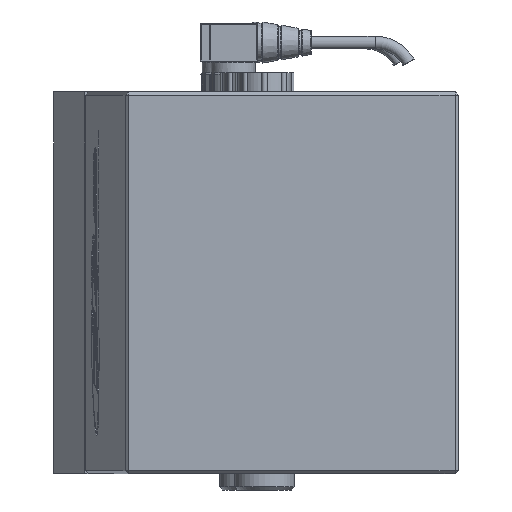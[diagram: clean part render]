
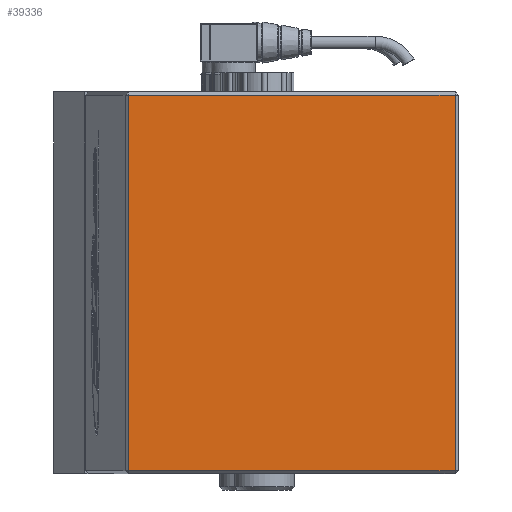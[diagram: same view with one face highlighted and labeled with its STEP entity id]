
A CAD part, left-side view. The second image highlights one B-rep face of the part: STEP entity #39336.
In plain terms, the highlighted planar face has unit normal (-1, 0, 0).
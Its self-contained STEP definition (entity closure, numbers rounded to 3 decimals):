
#39297=CARTESIAN_POINT('',(0.,-51.4,0.0));
#39298=DIRECTION('',(-1.0,0.0,0.0));
#39299=DIRECTION('',(0.0,0.0,1.0));
#39300=AXIS2_PLACEMENT_3D('',#39297,#39298,#39299);
#39301=PLANE('',#39300);
#39302=CARTESIAN_POINT('',(0.,52.211,-59.0));
#39303=VERTEX_POINT('',#39302);
#39304=CARTESIAN_POINT('',(0.,52.211,59.0));
#39305=VERTEX_POINT('',#39304);
#39306=CARTESIAN_POINT('',(0.,52.211,-59.0));
#39307=DIRECTION('',(0.0,0.0,1.0));
#39308=VECTOR('',#39307,118.0);
#39309=LINE('',#39306,#39308);
#39310=EDGE_CURVE('',#39303,#39305,#39309,.T.);
#39311=ORIENTED_EDGE('',*,*,#39310,.F.);
#39312=CARTESIAN_POINT('',(0.,-50.4,-59.0));
#39313=VERTEX_POINT('',#39312);
#39314=CARTESIAN_POINT('',(0.,-50.4,-59.0));
#39315=DIRECTION('',(0.0,1.0,0.0));
#39316=VECTOR('',#39315,102.611);
#39317=LINE('',#39314,#39316);
#39318=EDGE_CURVE('',#39313,#39303,#39317,.T.);
#39319=ORIENTED_EDGE('',*,*,#39318,.F.);
#39320=CARTESIAN_POINT('',(0.,-50.4,59.0));
#39321=VERTEX_POINT('',#39320);
#39322=CARTESIAN_POINT('',(0.,-50.4,59.0));
#39323=DIRECTION('',(0.0,0.0,-1.0));
#39324=VECTOR('',#39323,118.0);
#39325=LINE('',#39322,#39324);
#39326=EDGE_CURVE('',#39321,#39313,#39325,.T.);
#39327=ORIENTED_EDGE('',*,*,#39326,.F.);
#39328=CARTESIAN_POINT('',(0.,52.211,59.0));
#39329=DIRECTION('',(0.0,-1.0,0.0));
#39330=VECTOR('',#39329,102.611);
#39331=LINE('',#39328,#39330);
#39332=EDGE_CURVE('',#39305,#39321,#39331,.T.);
#39333=ORIENTED_EDGE('',*,*,#39332,.F.);
#39334=EDGE_LOOP('',(#39311,#39319,#39327,#39333));
#39335=FACE_OUTER_BOUND('',#39334,.T.);
#39336=ADVANCED_FACE('',(#39335),#39301,.T.);
